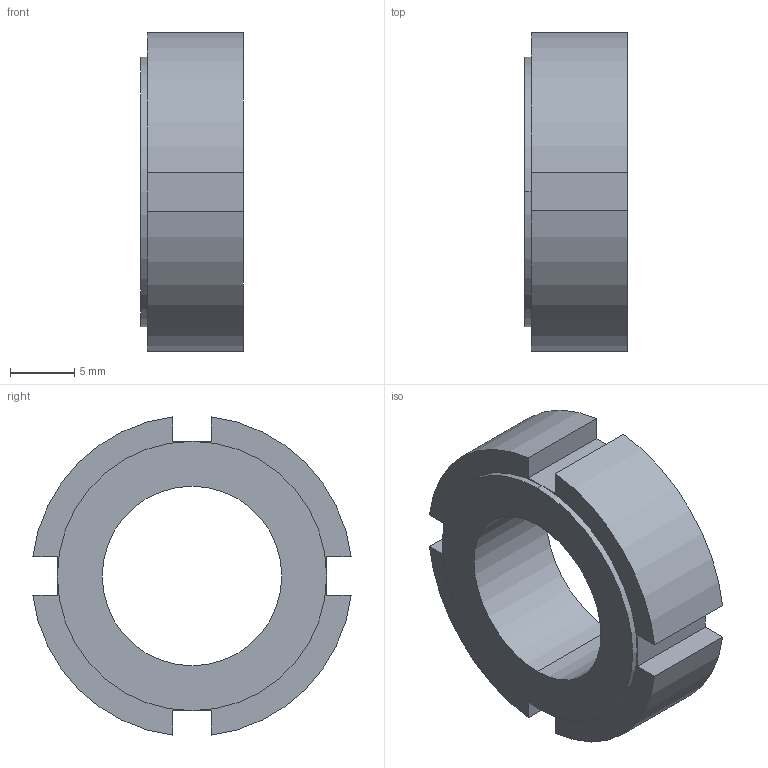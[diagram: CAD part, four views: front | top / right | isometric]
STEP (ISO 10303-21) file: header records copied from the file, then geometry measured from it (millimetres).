
FILE_DESCRIPTION (( 'STEP AP203' ), '1' );
FILE_NAME ('HIR15.STEP', '2002-08-15T11:39:40', ( '.' ), ( '.' ), 'SwSTEP 2.0', 'SolidWorks 2001340', '' );
FILE_SCHEMA (( 'CONFIG_CONTROL_DESIGN' ));
Length unit declared in the file: millimetre
Products named in the file (1): HIR15
Bounding box: 8 x 24.82 x 24.82 mm (x, y, z)
Volume: 2445.9 mm3; surface area: 1714.8 mm2
Topology: 1 solids, 1 shells, 26 faces, 66 edges, 42 vertices
Faces by surface type: plane 18, cylinder 8
Entity records: 861 total; most frequent: DIRECTION 138, CARTESIAN_POINT 135, ORIENTED_EDGE 132, EDGE_CURVE 66, LINE 48, VECTOR 48, AXIS2_PLACEMENT_3D 45, VERTEX_POINT 42
